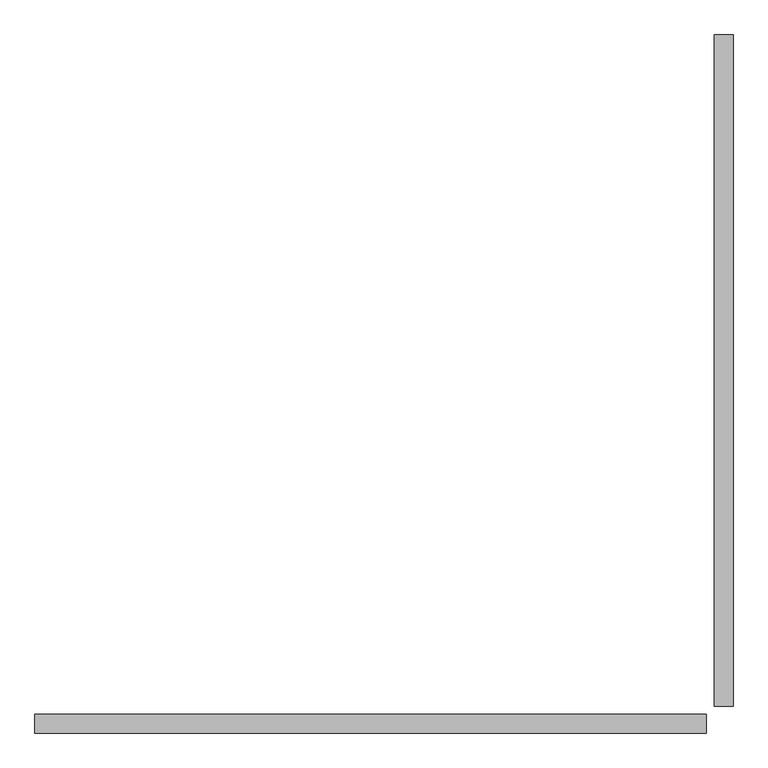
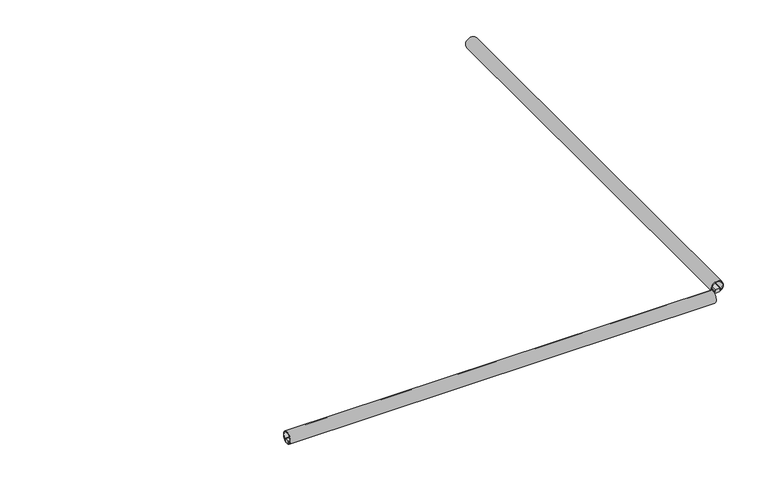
"""IFC4 building model written with IfcOpenShell, lengths in millimetres: light fixture geometry."""

from ifc_helpers import new_model, si_unit, point, frame, frame_2d, origin, place, context, project, spatial, polyline, circle_curve, trimmed, segment, composite_curve, outline, extrude, source, transform, mapped, element, save


def light_fixture_8f23a644(model_context):
    return source(origin(), model_context, "Body", "SweptSolid", [
        extrude(outline(composite_curve([segment(polyline([(52.9333396, 1874.2532014), (57.259212, 1874.2532014), (57.259212, 1872.3354474), (55.8288843, 1872.3354474), (57.2440748, 1870.3854474), (59.244074, 1870.3854474), (59.244074, 1873.3354474), (60.744074, 1873.3354474), (60.744074, 1868.725222)]), True, "CONTINUOUS"), segment(trimmed(circle_curve(frame_2d((75.0, 1886.0032014)), 22.4), [point((60.744074, 1868.725222))], [point((60.744074, 1903.2811808))], True, "CARTESIAN"), True, "CONTINUOUS"), segment(polyline([(60.744074, 1903.2811808), (60.744074, 1898.6709554), (59.244074, 1898.6709554), (59.244074, 1901.6209554), (57.2440748, 1901.6209554), (55.8288843, 1899.6709554), (57.259212, 1899.6709554), (57.259212, 1897.7532014), (52.9333396, 1897.7532014)]), True, "CONTINUOUS"), segment(trimmed(circle_curve(frame_2d((75.0, 1886.0032014)), 25.0), [point((52.9333396, 1897.7532014))], [point((52.9333396, 1874.2532014))], False, "CARTESIAN"), True, "CONTINUOUS")], self_intersect=False)), frame((0.0, -69.5, 0.0), z_axis=(0.0, 1.0, 0.0), x_axis=(0.0, 0.0, 1.0)), (0.0, 0.0, 1.0), 1770.0),
        extrude(outline(composite_curve([segment(polyline([(52.9333396, 1897.7532014), (57.259212, 1897.7532014), (57.259212, 1901.3072884), (58.785971, 1901.3072884), (58.785971, 1895.5094589), (64.4273482, 1895.5094589), (64.4273482, 1876.4969439), (58.785971, 1876.4969439), (58.785971, 1870.6991144), (57.259212, 1870.6991144), (57.259212, 1874.2532014), (52.9333396, 1874.2532014)]), True, "CONTINUOUS"), segment(trimmed(circle_curve(frame_2d((75.0, 1886.0032014)), 25.0), [point((52.9333396, 1874.2532014))], [point((52.9333396, 1897.7532014))], False, "CARTESIAN"), True, "CONTINUOUS")], self_intersect=False)), frame((0.0, -69.5, 0.0), z_axis=(0.0, 1.0, 0.0), x_axis=(0.0, 0.0, 1.0)), (0.0, 0.0, 1.0), 1770.0),
        extrude(outline(composite_curve([segment(trimmed(circle_curve(frame_2d((-115.0, 75.0)), 25.0), [point((-126.75, 52.9333396))], [point((-103.25, 52.9333396))], False, "CARTESIAN"), True, "CONTINUOUS"), segment(polyline([(-103.25, 52.9333396), (-103.25, 57.259212), (-101.332246, 57.259212), (-101.332246, 55.8288843), (-99.382246, 57.2440748), (-99.382246, 59.244074), (-102.332246, 59.244074), (-102.332246, 60.744074), (-97.7220206, 60.744074)]), True, "CONTINUOUS"), segment(trimmed(circle_curve(frame_2d((-115.0, 75.0)), 22.4), [point((-97.7220206, 60.744074))], [point((-132.2779794, 60.744074))], True, "CARTESIAN"), True, "CONTINUOUS"), segment(polyline([(-132.2779794, 60.744074), (-127.667754, 60.744074), (-127.667754, 59.244074), (-130.617754, 59.244074), (-130.617754, 57.2440748), (-128.667754, 55.8288843), (-128.667754, 57.259212), (-126.75, 57.259212), (-126.75, 52.9333396)]), True, "CONTINUOUS")], self_intersect=False)), frame((70.5, 0.0, 0.0), z_axis=(1.0, 0.0, 0.0), x_axis=(0.0, 1.0, 0.0)), (0.0, 0.0, 1.0), 1770.0032014),
        extrude(outline(composite_curve([segment(trimmed(circle_curve(frame_2d((-115.0, 75.0)), 25.0), [point((-103.25, 52.9333396))], [point((-126.75, 52.9333396))], False, "CARTESIAN"), True, "CONTINUOUS"), segment(polyline([(-126.75, 52.9333396), (-126.75, 57.259212), (-130.304087, 57.259212), (-130.304087, 58.785971), (-124.5062575, 58.785971), (-124.5062575, 64.4273482), (-105.4937425, 64.4273482), (-105.4937425, 58.785971), (-99.695913, 58.785971), (-99.695913, 57.259212), (-103.25, 57.259212), (-103.25, 52.9333396)]), True, "CONTINUOUS")], self_intersect=False)), frame((70.5, 0.0, 0.0), z_axis=(1.0, 0.0, 0.0), x_axis=(0.0, 1.0, 0.0)), (0.0, 0.0, 1.0), 1770.0032014),
    ])


if __name__ == "__main__":
    model = new_model("IFC4")
    model_context = context("Model", 3, world=origin())
    ifc_project = project(units=[si_unit("LENGTHUNIT", "METRE", prefix="MILLI")], contexts=[model_context])
    site = spatial("IfcSite", under=ifc_project)
    building = spatial("IfcBuilding", under=site)
    placement = place(None, origin())
    light_fixture_shape = light_fixture_8f23a644(model_context)
    element("IfcLightFixture", 1, at=placement, inside=building, context=model_context, shape_type="MappedRepresentation", body=[
        mapped(light_fixture_shape, transform((0.0, 0.0, 0.0), x_axis=(1.0, 0.0, 0.0), y_axis=(0.0, 1.0, 0.0), z_axis=(0.0, 0.0, 1.0))),
    ])
    save(model, "model.ifc")
